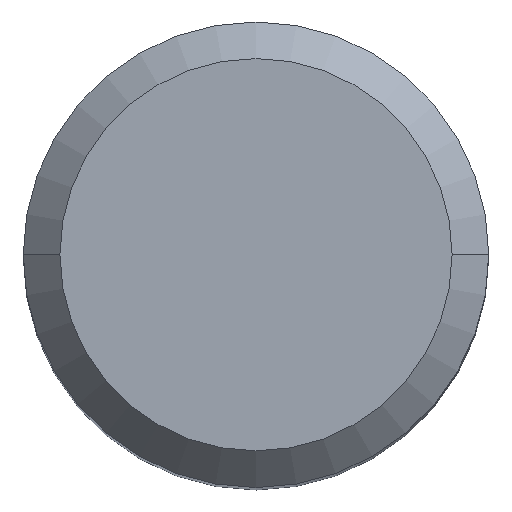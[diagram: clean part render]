
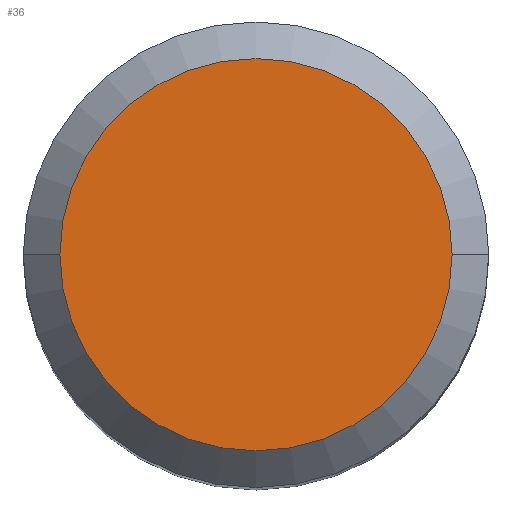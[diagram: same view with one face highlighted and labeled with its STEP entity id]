
A CAD part, top view. The second image highlights one B-rep face of the part: STEP entity #36.
In plain terms, the highlighted planar face has unit normal (0, 0, 1).
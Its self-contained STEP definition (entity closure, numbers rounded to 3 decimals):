
#32=PLANE('',#150);
#36=ADVANCED_FACE('',(#44),#32,.T.);
#44=FACE_OUTER_BOUND('',#52,.F.);
#52=EDGE_LOOP('',(#67,#68));
#67=ORIENTED_EDGE('',*,*,#110,.F.);
#68=ORIENTED_EDGE('',*,*,#108,.F.);
#108=EDGE_CURVE('',#134,#133,#122,.T.);
#110=EDGE_CURVE('',#133,#134,#124,.T.);
#122=CIRCLE('',#140,1.338);
#124=CIRCLE('',#142,1.338);
#133=VERTEX_POINT('',#203);
#134=VERTEX_POINT('',#204);
#140=AXIS2_PLACEMENT_3D('',#208,#160,#161);
#142=AXIS2_PLACEMENT_3D('',#210,#164,#165);
#150=AXIS2_PLACEMENT_3D('',#224,#186,#187);
#160=DIRECTION('',(0.,0.,1.));
#161=DIRECTION('',(-1.,0.,0.));
#164=DIRECTION('',(0.,0.,1.));
#165=DIRECTION('',(1.,0.,0.));
#186=DIRECTION('',(0.,0.,1.));
#187=DIRECTION('',(0.,1.,0.));
#203=CARTESIAN_POINT('',(-70.662,60.8,156.825));
#204=CARTESIAN_POINT('',(-73.337,60.8,156.825));
#208=CARTESIAN_POINT('',(-72.,60.8,156.825));
#210=CARTESIAN_POINT('',(-72.,60.8,156.825));
#224=CARTESIAN_POINT('',(-70.412,59.212,156.825));
